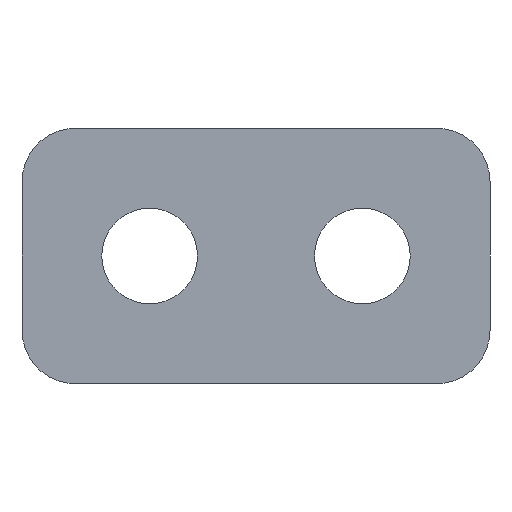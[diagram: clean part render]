
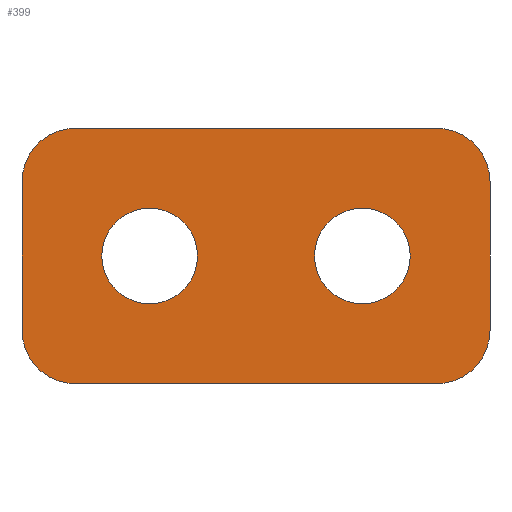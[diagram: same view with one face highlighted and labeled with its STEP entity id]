
A CAD part, front view. The second image highlights one B-rep face of the part: STEP entity #399.
In plain terms, the highlighted planar face has unit normal (0, -1, 0).
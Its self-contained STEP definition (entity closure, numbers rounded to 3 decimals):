
#5 = FACE_BOUND ( 'NONE', #146, .T. ) ;
#14 = DIRECTION ( 'NONE',  ( 0., 1., 0. ) ) ;
#17 = ORIENTED_EDGE ( 'NONE', *, *, #513, .F. ) ;
#26 = CARTESIAN_POINT ( 'NONE',  ( 11., 0., -3.5 ) ) ;
#27 = CIRCLE ( 'NONE', #185, 2.25 ) ;
#30 = DIRECTION ( 'NONE',  ( 0., 0., 1. ) ) ;
#34 = CIRCLE ( 'NONE', #246, 2.25 ) ;
#36 = LINE ( 'NONE', #232, #481 ) ;
#53 = DIRECTION ( 'NONE',  ( 0., -1., 0. ) ) ;
#54 = VERTEX_POINT ( 'NONE', #386 ) ;
#59 = CARTESIAN_POINT ( 'NONE',  ( -11., 0., 6. ) ) ;
#70 = CARTESIAN_POINT ( 'NONE',  ( -5., 0., 0. ) ) ;
#72 = CARTESIAN_POINT ( 'NONE',  ( 5., 0., 2.25 ) ) ;
#73 = ORIENTED_EDGE ( 'NONE', *, *, #77, .T. ) ;
#76 = PLANE ( 'NONE',  #400 ) ;
#77 = EDGE_CURVE ( 'NONE', #382, #419, #210, .T. ) ;
#78 = ORIENTED_EDGE ( 'NONE', *, *, #79, .F. ) ;
#79 = EDGE_CURVE ( 'NONE', #472, #419, #36, .T. ) ;
#82 = CARTESIAN_POINT ( 'NONE',  ( -11., 0., 3.5 ) ) ;
#87 = CARTESIAN_POINT ( 'NONE',  ( -8.5, 0., 3.5 ) ) ;
#96 = ORIENTED_EDGE ( 'NONE', *, *, #102, .T. ) ;
#101 = CARTESIAN_POINT ( 'NONE',  ( 11., 0., 3.5 ) ) ;
#102 = EDGE_CURVE ( 'NONE', #531, #473, #387, .T. ) ;
#107 = DIRECTION ( 'NONE',  ( -1., 0., 0. ) ) ;
#122 = VERTEX_POINT ( 'NONE', #500 ) ;
#124 = AXIS2_PLACEMENT_3D ( 'NONE', #195, #492, #147 ) ;
#127 = DIRECTION ( 'NONE',  ( 0., -1., 0. ) ) ;
#129 = EDGE_CURVE ( 'NONE', #382, #473, #612, .T. ) ;
#131 = CARTESIAN_POINT ( 'NONE',  ( 0., 0., 0. ) ) ;
#135 = ORIENTED_EDGE ( 'NONE', *, *, #649, .T. ) ;
#136 = DIRECTION ( 'NONE',  ( 0., 0., 1. ) ) ;
#141 = CIRCLE ( 'NONE', #314, 2.5 ) ;
#145 = EDGE_CURVE ( 'NONE', #228, #54, #224, .T. ) ;
#146 = EDGE_LOOP ( 'NONE', ( #404, #295 ) ) ;
#147 = DIRECTION ( 'NONE',  ( 0., 0., 1. ) ) ;
#180 = AXIS2_PLACEMENT_3D ( 'NONE', #409, #53, #358 ) ;
#185 = AXIS2_PLACEMENT_3D ( 'NONE', #70, #273, #568 ) ;
#195 = CARTESIAN_POINT ( 'NONE',  ( -5., 0., 0. ) ) ;
#204 = CARTESIAN_POINT ( 'NONE',  ( -11., 0., -6. ) ) ;
#210 = CIRCLE ( 'NONE', #180, 2.5 ) ;
#224 = CIRCLE ( 'NONE', #318, 2.5 ) ;
#228 = VERTEX_POINT ( 'NONE', #101 ) ;
#232 = CARTESIAN_POINT ( 'NONE',  ( -11., 0., -6. ) ) ;
#234 = VECTOR ( 'NONE', #245, 1000. ) ;
#240 = AXIS2_PLACEMENT_3D ( 'NONE', #87, #389, #30 ) ;
#245 = DIRECTION ( 'NONE',  ( 0., 0., 1. ) ) ;
#246 = AXIS2_PLACEMENT_3D ( 'NONE', #368, #14, #470 ) ;
#254 = AXIS2_PLACEMENT_3D ( 'NONE', #292, #586, #650 ) ;
#258 = DIRECTION ( 'NONE',  ( 0., 0., -1. ) ) ;
#273 = DIRECTION ( 'NONE',  ( 0., 1., 0. ) ) ;
#275 = CARTESIAN_POINT ( 'NONE',  ( -8.5, 0., -6. ) ) ;
#279 = LINE ( 'NONE', #59, #451 ) ;
#283 = EDGE_CURVE ( 'NONE', #578, #122, #311, .T. ) ;
#292 = CARTESIAN_POINT ( 'NONE',  ( 5., 0., 0. ) ) ;
#295 = ORIENTED_EDGE ( 'NONE', *, *, #363, .T. ) ;
#296 = EDGE_CURVE ( 'NONE', #597, #493, #430, .T. ) ;
#311 = CIRCLE ( 'NONE', #254, 2.25 ) ;
#314 = AXIS2_PLACEMENT_3D ( 'NONE', #477, #127, #426 ) ;
#318 = AXIS2_PLACEMENT_3D ( 'NONE', #336, #633, #343 ) ;
#325 = ORIENTED_EDGE ( 'NONE', *, *, #129, .F. ) ;
#329 = CARTESIAN_POINT ( 'NONE',  ( -11., 0., -3.5 ) ) ;
#336 = CARTESIAN_POINT ( 'NONE',  ( 8.5, 0., 3.5 ) ) ;
#343 = DIRECTION ( 'NONE',  ( 0., 0., 1. ) ) ;
#358 = DIRECTION ( 'NONE',  ( 0., 0., 1. ) ) ;
#362 = CARTESIAN_POINT ( 'NONE',  ( -5., 0., -2.25 ) ) ;
#363 = EDGE_CURVE ( 'NONE', #122, #578, #34, .T. ) ;
#364 = DIRECTION ( 'NONE',  ( 1., 0., 0. ) ) ;
#368 = CARTESIAN_POINT ( 'NONE',  ( 5., 0., 0. ) ) ;
#378 = CARTESIAN_POINT ( 'NONE',  ( -5., 0., 2.25 ) ) ;
#382 = VERTEX_POINT ( 'NONE', #329 ) ;
#386 = CARTESIAN_POINT ( 'NONE',  ( 8.5, 0., 6. ) ) ;
#387 = CIRCLE ( 'NONE', #240, 2.5 ) ;
#389 = DIRECTION ( 'NONE',  ( 0., -1., 0. ) ) ;
#399 = ADVANCED_FACE ( 'NONE', ( #557, #5, #516 ), #76, .F. ) ;
#400 = AXIS2_PLACEMENT_3D ( 'NONE', #131, #523, #136 ) ;
#404 = ORIENTED_EDGE ( 'NONE', *, *, #283, .T. ) ;
#409 = CARTESIAN_POINT ( 'NONE',  ( -8.5, 0., -3.5 ) ) ;
#414 = CARTESIAN_POINT ( 'NONE',  ( 11., 0., -6. ) ) ;
#419 = VERTEX_POINT ( 'NONE', #275 ) ;
#426 = DIRECTION ( 'NONE',  ( 0., 0., 1. ) ) ;
#430 = CIRCLE ( 'NONE', #124, 2.25 ) ;
#435 = CARTESIAN_POINT ( 'NONE',  ( 8.5, 0., -6. ) ) ;
#440 = LINE ( 'NONE', #414, #501 ) ;
#451 = VECTOR ( 'NONE', #364, 1000. ) ;
#470 = DIRECTION ( 'NONE',  ( 0., 0., 1. ) ) ;
#472 = VERTEX_POINT ( 'NONE', #435 ) ;
#473 = VERTEX_POINT ( 'NONE', #82 ) ;
#477 = CARTESIAN_POINT ( 'NONE',  ( 8.5, 0., -3.5 ) ) ;
#480 = VERTEX_POINT ( 'NONE', #26 ) ;
#481 = VECTOR ( 'NONE', #107, 1000. ) ;
#489 = EDGE_CURVE ( 'NONE', #228, #480, #440, .T. ) ;
#492 = DIRECTION ( 'NONE',  ( 0., 1., 0. ) ) ;
#493 = VERTEX_POINT ( 'NONE', #362 ) ;
#500 = CARTESIAN_POINT ( 'NONE',  ( 5., 0., -2.25 ) ) ;
#501 = VECTOR ( 'NONE', #258, 1000. ) ;
#507 = ORIENTED_EDGE ( 'NONE', *, *, #296, .T. ) ;
#513 = EDGE_CURVE ( 'NONE', #531, #54, #279, .T. ) ;
#516 = FACE_OUTER_BOUND ( 'NONE', #580, .T. ) ;
#523 = DIRECTION ( 'NONE',  ( 0., 1., 0. ) ) ;
#531 = VERTEX_POINT ( 'NONE', #532 ) ;
#532 = CARTESIAN_POINT ( 'NONE',  ( -8.5, 0., 6. ) ) ;
#533 = ORIENTED_EDGE ( 'NONE', *, *, #589, .T. ) ;
#556 = ORIENTED_EDGE ( 'NONE', *, *, #145, .T. ) ;
#557 = FACE_BOUND ( 'NONE', #609, .T. ) ;
#568 = DIRECTION ( 'NONE',  ( 0., 0., 1. ) ) ;
#578 = VERTEX_POINT ( 'NONE', #72 ) ;
#580 = EDGE_LOOP ( 'NONE', ( #78, #135, #642, #556, #17, #96, #325, #73 ) ) ;
#586 = DIRECTION ( 'NONE',  ( 0., 1., 0. ) ) ;
#589 = EDGE_CURVE ( 'NONE', #493, #597, #27, .T. ) ;
#597 = VERTEX_POINT ( 'NONE', #378 ) ;
#609 = EDGE_LOOP ( 'NONE', ( #507, #533 ) ) ;
#612 = LINE ( 'NONE', #204, #234 ) ;
#633 = DIRECTION ( 'NONE',  ( 0., -1., 0. ) ) ;
#642 = ORIENTED_EDGE ( 'NONE', *, *, #489, .F. ) ;
#649 = EDGE_CURVE ( 'NONE', #472, #480, #141, .T. ) ;
#650 = DIRECTION ( 'NONE',  ( 0., 0., 1. ) ) ;
